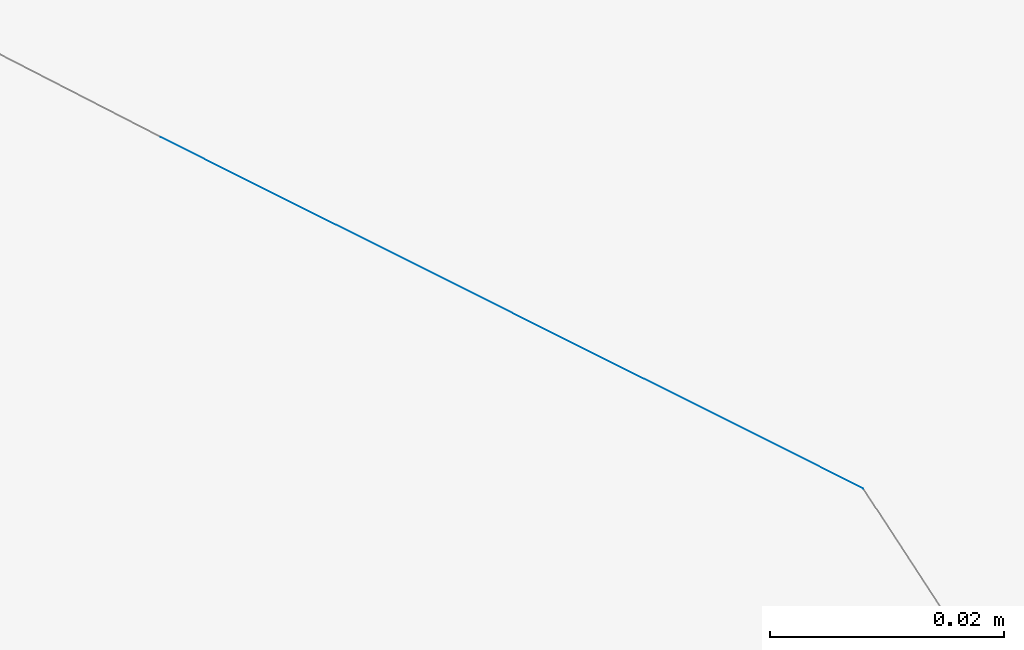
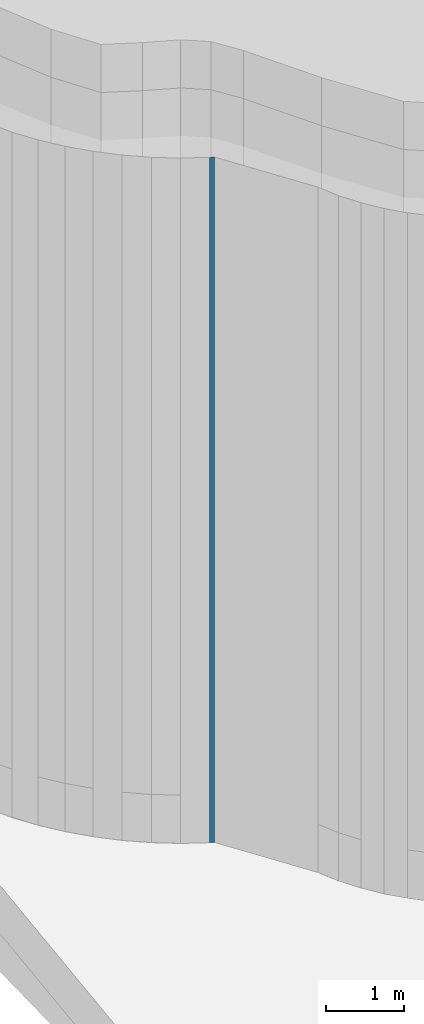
# Not in any storey, part 35 of 136: 1 wall.
"""IFC4 building model written with IfcOpenShell, lengths in metres."""

import ifcopenshell
import ifcopenshell.guid

model = None  # the IFC model being written
_history = None  # IfcOwnerHistory: only IFC2X3 demands one
_inside = {}  # id of a spatial element -> (the spatial element, [elements in it])
_under = {}  # id of a project, library or spatial element -> (it, [spatial elements below it])
_declared = {}  # id of a project -> (the project, [libraries it declares])
_typed = {}  # id of a type object -> (the type object, [elements of that type])
_made_of = {}  # id of a material, layer set ... -> (it, [elements and type objects made of it])


def new_model(schema):
    """Start an empty IFC model of exactly this schema.

    Asked for "IFC4X3", IfcOpenShell would pick the latest addendum, in which some entities
    have other attributes; the version numbers below select the first issue.
    IFC2X3 requires an IfcOwnerHistory on every rooted entity: one is made here for all.
    """
    global model, _history
    if schema == "IFC4X3":
        model = ifcopenshell.file(schema_version=(4, 3, 0, 0))
    else:
        model = ifcopenshell.file(schema=schema)
    _inside.clear()
    _under.clear()
    _declared.clear()
    _typed.clear()
    _made_of.clear()
    _history = None
    if model.schema == "IFC2X3":
        org = make("IfcOrganization", Name="unknown")
        user = make(
            "IfcPersonAndOrganization",
            ThePerson=make("IfcPerson", FamilyName="unknown"),
            TheOrganization=org,
        )
        app = make(
            "IfcApplication",
            ApplicationDeveloper=org,
            Version="unknown",
            ApplicationFullName="unknown",
            ApplicationIdentifier="unknown",
        )
        _history = make(
            "IfcOwnerHistory",
            OwningUser=user,
            OwningApplication=app,
            ChangeAction="ADDED",
            CreationDate=0,
        )
    return model


def make(cls, **values):
    """One entity of the class cls with the attributes given. An attribute that is None is left unset."""
    return model.create_entity(
        cls, **{name: value for name, value in values.items() if value is not None}
    )


def entity(cls, *values):
    """Any entity or typed value of the class cls, its attributes in the order of the schema. None: left unset."""
    e = model.create_entity(cls)
    for i, value in enumerate(values):
        if value is not None:
            e[i] = value
    return e


def rooted(cls, **values):
    """An entity with a GlobalId (a new one), such as an element, a storey or a relation."""
    return make(cls, GlobalId=ifcopenshell.guid.new(), OwnerHistory=_history, **values)


def si_unit(unit_type, name, prefix=None):
    """IfcSIUnit, for example si_unit("LENGTHUNIT", "METRE", prefix="MILLI")."""
    return make("IfcSIUnit", UnitType=unit_type, Prefix=prefix, Name=name)


def converted_unit(unit_type, name, factor, base, dimensions=None, offset=None):
    """IfcConversionBasedUnit, such as the inch: factor (a typed value) times the base unit."""
    return make(
        "IfcConversionBasedUnit"
        if offset is None
        else "IfcConversionBasedUnitWithOffset",
        ConversionOffset=offset,
        Dimensions=None
        if dimensions is None
        else entity("IfcDimensionalExponents", *dimensions),
        UnitType=unit_type,
        Name=name,
        ConversionFactor=make(
            "IfcMeasureWithUnit", ValueComponent=factor, UnitComponent=base
        ),
    )


def assignment(units):
    """IfcUnitAssignment: the units of a project."""
    return None if units is None else make("IfcUnitAssignment", Units=units)


def point(xyz):
    """IfcCartesianPoint."""
    return None if xyz is None else make("IfcCartesianPoint", Coordinates=xyz)


def direction(xyz):
    """IfcDirection."""
    return None if xyz is None else make("IfcDirection", DirectionRatios=xyz)


def frame(location, z_axis=None, x_axis=None):
    """IfcAxis2Placement3D, a coordinate frame: its origin and axes. An axis left out is left unset."""
    return make(
        "IfcAxis2Placement3D",
        Location=point(location),
        Axis=direction(z_axis),
        RefDirection=direction(x_axis),
    )


def origin():
    """The frame at (0, 0, 0) with its axes left unset."""
    return frame((0.0, 0.0, 0.0))


def place(relative_to, where):
    """IfcLocalPlacement: puts the frame where relative to a parent placement (None: the world)."""
    return make(
        "IfcLocalPlacement", PlacementRelTo=relative_to, RelativePlacement=where
    )


def context(
    kind, dimensions, precision=None, world=None, true_north=None, identifier=None
):
    """IfcGeometricRepresentationContext, for example the 3D "Model" context."""
    return make(
        "IfcGeometricRepresentationContext",
        ContextIdentifier=identifier,
        ContextType=kind,
        CoordinateSpaceDimension=dimensions,
        Precision=precision,
        WorldCoordinateSystem=world,
        TrueNorth=true_north,
    )


def subcontext(parent, identifier, kind, view, scale=None):
    """IfcGeometricRepresentationSubContext, for example "Body" below "Model"."""
    return make(
        "IfcGeometricRepresentationSubContext",
        ContextIdentifier=identifier,
        ContextType=kind,
        ParentContext=parent,
        TargetScale=scale,
        TargetView=view,
    )


def project(units=None, contexts=None):
    """IfcProject with its units and contexts."""
    return rooted(
        "IfcProject",
        Name="project",
        RepresentationContexts=contexts,
        UnitsInContext=assignment(units),
    )


def spatial(cls, under=None, at=None, **own):
    """A site, building, storey or space (cls), placed at a placement, below another one or the project."""
    s = rooted(cls, ObjectPlacement=at, **own)
    if under is not None:
        _under.setdefault(under.id(), (under, []))[1].append(s)
    return s


def faces_of(points, faces, orient=None, outer=None):
    """IfcFace entities. A face is a list of loops; a loop is a list of indices into points, from 0.

    orient and outer hold one flag for each loop. By default every Orientation is true, the
    first loop of a face is its IfcFaceOuterBound and the others are IfcFaceBound.
    """
    made = []
    for i, loops in enumerate(faces):
        bounds = []
        for j, loop in enumerate(loops):
            is_outer = j == 0 if outer is None else outer[i][j]
            bounds.append(
                make(
                    "IfcFaceOuterBound" if is_outer else "IfcFaceBound",
                    Bound=make("IfcPolyLoop", Polygon=[points[k] for k in loop]),
                    Orientation=True if orient is None else orient[i][j],
                )
            )
        made.append(make("IfcFace", Bounds=bounds))
    return made


def face_set(faces, orient=None, outer=None):
    """The faces of one IfcConnectedFaceSet. surface_model builds it on its shared points."""
    return ("IfcConnectedFaceSet", faces, orient, outer)


def surface_model(cls, points, shells):
    """IfcFaceBasedSurfaceModel or IfcShellBasedSurfaceModel (cls): surfaces that need not close."""
    shared = [point(p) for p in points]
    made = [make(c, CfsFaces=faces_of(shared, fs, o, b)) for c, fs, o, b in shells]
    if cls == "IfcFaceBasedSurfaceModel":
        return make(cls, FbsmFaces=made)
    return make(cls, SbsmBoundary=made)


def shape(context_of_items, identifier, shape_type, items):
    """IfcShapeRepresentation: the items that make up one representation, for example the "Body"."""
    return make(
        "IfcShapeRepresentation",
        ContextOfItems=context_of_items,
        RepresentationIdentifier=identifier,
        RepresentationType=shape_type,
        Items=items,
    )


def made_of(thing, what):
    """Note that an element or type object is made of a material, layer set ...; save() writes the relation."""
    if what is not None:
        _made_of.setdefault(what.id(), (what, []))[1].append(thing)
    return thing


def element(
    cls,
    number,
    at=None,
    inside=None,
    cuts=None,
    type_object=None,
    material=None,
    context=None,
    identifier="Body",
    shape_type=None,
    held_by="IfcProductDefinitionShape",
    body=None,
    shapes=None,
    **own,
):
    """One element of the class cls, such as IfcWall. Its Tag is "e" and its number.

    at: its placement. inside: the storey or other place that contains it. cuts: it is an
    opening in that element (IfcRelVoidsElement). A single representation is given by context,
    identifier, shape_type and body (its items); several are given by shapes. held_by: the class
    of the entity that holds the representations. save() writes the other relations.
    """
    e = rooted(cls, Tag="e%d" % number, ObjectPlacement=at, **own)
    if body is not None:
        shapes = [shape(context, identifier, shape_type, body)]
    if shapes is not None:
        e.Representation = make(held_by, Representations=shapes)
    if inside is not None:
        _inside.setdefault(inside.id(), (inside, []))[1].append(e)
    if cuts is not None:
        rooted(
            "IfcRelVoidsElement", RelatingBuildingElement=cuts, RelatedOpeningElement=e
        )
    if type_object is not None:
        _typed.setdefault(type_object.id(), (type_object, []))[1].append(e)
    return made_of(e, material)


def aggregate(whole, parts):
    """IfcRelAggregates: a whole, such as a stair, and the parts it consists of."""
    return rooted("IfcRelAggregates", RelatingObject=whole, RelatedObjects=parts)


def save(model, path):
    """Write the relations noted so far, then the file.

    IfcRelAggregates (storeys below a building ...), IfcRelContainedInSpatialStructure (elements
    in a storey), IfcRelDefinesByType, IfcRelAssociatesMaterial and IfcRelDeclares: one each for
    every whole, place, type object, material and project.
    """
    for whole, parts in _under.values():
        aggregate(whole, parts)
    for where, things in _inside.values():
        rooted(
            "IfcRelContainedInSpatialStructure",
            RelatedElements=things,
            RelatingStructure=where,
        )
    for kind, things in _typed.values():
        rooted("IfcRelDefinesByType", RelatedObjects=things, RelatingType=kind)
    for what, things in _made_of.values():
        rooted("IfcRelAssociatesMaterial", RelatedObjects=things, RelatingMaterial=what)
    for by, libraries in _declared.values():
        rooted("IfcRelDeclares", RelatingContext=by, RelatedDefinitions=libraries)
    model.write(path)


model = new_model("IFC4")

# Units and contexts
model_context = context("Model", 3, precision=1e-05, world=origin())
body_context = subcontext(model_context, "Body", "Model", "MODEL_VIEW")
ifc_project = project(units=[converted_unit("PLANEANGLEUNIT", "DEGREE", entity("IfcRatioMeasure", 0.0174532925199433), si_unit("PLANEANGLEUNIT", "RADIAN"), dimensions=[0, 0, 0, 0, 0, 0, 0]), si_unit("AREAUNIT", "SQUARE_METRE"), si_unit("LENGTHUNIT", "METRE")], contexts=[model_context])

# Site, building
site_placement = place(None, origin())
site = spatial("IfcSite", under=ifc_project, at=site_placement, Name="_site")
building_placement = place(site_placement, origin())
building = spatial("IfcBuilding", under=site, at=building_placement, Name="_building")

# Wall
wall_placement = place(building_placement, origin())
element("IfcWall", 1, at=wall_placement, inside=building, Name="Wall", PredefinedType="NOTDEFINED", context=body_context, shape_type="SurfaceModel", body=[
    surface_model("IfcFaceBasedSurfaceModel", [(177.7, 55.69, 48.6), (177.64, 55.72, 48.6), (177.64, 55.72, 37.926), (177.7, 55.69, 37.926)], [face_set([[[0, 1, 2, 3]]])]),
])

save(model, "model.ifc")
